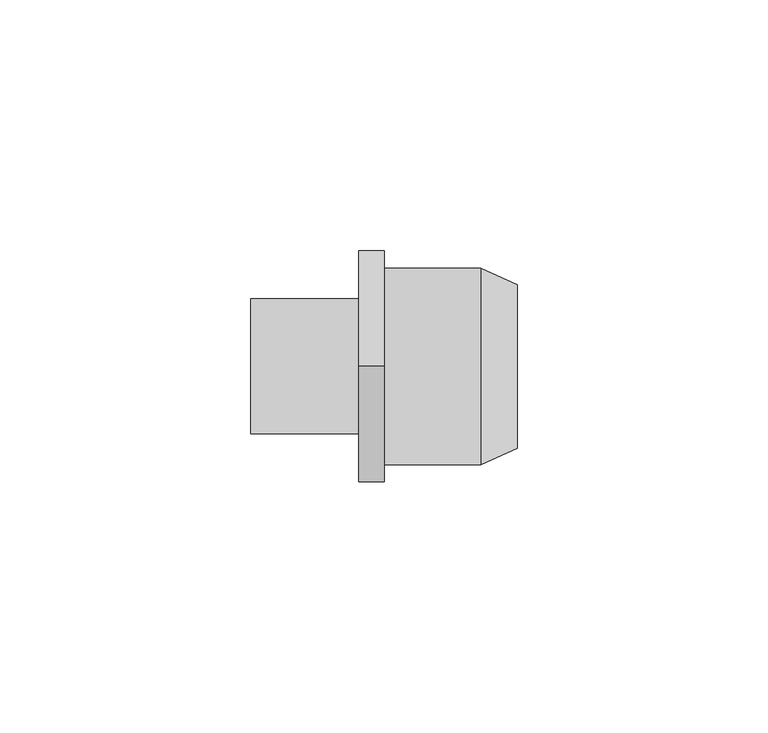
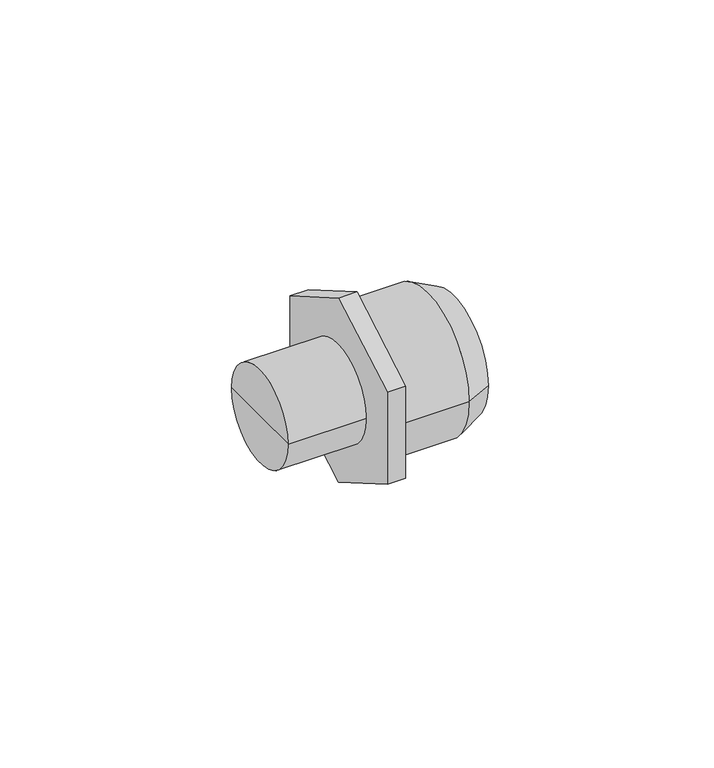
"""IFC4 building model written with IfcOpenShell, lengths in millimetres: pipe fitting geometry."""

from ifc_helpers import new_model, si_unit, point, frame, origin, origin_2d, place, context, project, spatial, polyline, circle_curve, trimmed, segment, composite_curve, outline, extrude, source, transform, mapped, element, save
from ifc_brep_helpers import plane_surface, cylinder_surface, revolved_surface, advanced_brep


def pipe_fitting_dd13a059(model_context):
    return source(origin(), model_context, "Body", "SolidModel", [
        extrude(outline(polyline([(23.0, -13.2790562), (0.0, -26.5581124), (-23.0, -13.2790562), (-23.0, 13.2790562), (0.0, 26.5581124), (23.0, 13.2790562), (23.0, -13.2790562)]), holes=[composite_curve([segment(trimmed(circle_curve(origin_2d(), 9.55), [point((9.55, 0.0))], [point((-9.55, 0.0))], True, "CARTESIAN"), True, "CONTINUOUS"), segment(trimmed(circle_curve(origin_2d(), 9.55), [point((-9.55, 0.0))], [point((9.55, 0.0))], True, "CARTESIAN"), True, "CONTINUOUS")], self_intersect=False)]), frame((-5.0, 0.0, 0.0), z_axis=(1.0, 0.0, 0.0), x_axis=(0.0, 1.0, 0.0)), (0.0, 0.0, 1.0), 5.0),
        advanced_brep(
        [(0.0, 19.6, 0.0), (0.0, -19.6, 0.0), (0.0, 0.0, 0.0), (19.3159018, 19.6, 0.0), (19.3159018, -19.6, 0.0), (26.5, 16.25, 0.0), (26.5, -16.25, 0.0), (2.5, 14.0, 0.0), (2.5, -14.0, 0.0), (26.5, -14.0, 0.0), (26.5, 14.0, 0.0), (2.5, 0.0, 0.0)],
        [
            (0, 1, circle_curve(frame((0.0, 0.0, 0.0), z_axis=(-1.0, 0.0, 0.0), x_axis=(0.0, -1.0, 0.0)), 19.6)),
            (1, 2),
            (2, 0),
            (1, 0, circle_curve(frame((0.0, 0.0, 0.0), z_axis=(-1.0, 0.0, 0.0), x_axis=(0.0, -1.0, 0.0)), 19.6)),
            (3, 4, circle_curve(frame((19.3159018, 0.0, 0.0), z_axis=(-1.0, 0.0, 0.0), x_axis=(0.0, -1.0, 0.0)), 19.6)),
            (4, 1),
            (0, 3),
            (4, 3, circle_curve(frame((19.3159018, 0.0, 0.0), z_axis=(-1.0, 0.0, 0.0), x_axis=(0.0, -1.0, 0.0)), 19.6)),
            (5, 6, circle_curve(frame((26.5, 0.0, 0.0), z_axis=(-1.0, 0.0, 0.0), x_axis=(0.0, -1.0, 0.0)), 16.25)),
            (6, 4),
            (3, 5),
            (6, 5, circle_curve(frame((26.5, 0.0, 0.0), z_axis=(-1.0, 0.0, 0.0), x_axis=(0.0, -1.0, 0.0)), 16.25)),
            (7, 8, circle_curve(frame((2.5, 0.0, 0.0), z_axis=(-1.0, 0.0, 0.0), x_axis=(0.0, -1.0, 0.0)), 14.0)),
            (8, 9),
            (9, 10, circle_curve(frame((26.5, 0.0, 0.0), z_axis=(1.0, 0.0, 0.0), x_axis=(0.0, -1.0, 0.0)), 14.0)),
            (10, 7),
            (8, 7, circle_curve(frame((2.5, 0.0, 0.0), z_axis=(-1.0, 0.0, 0.0), x_axis=(0.0, -1.0, 0.0)), 14.0)),
            (10, 9, circle_curve(frame((26.5, 0.0, 0.0), z_axis=(1.0, 0.0, 0.0), x_axis=(0.0, -1.0, 0.0)), 14.0)),
            (11, 8),
            (7, 11),
            (9, 6),
            (5, 10),
        ],
        [
            plane_surface(frame((0.0, 0.0, 0.0), z_axis=(-1.0, 0.0, 0.0), x_axis=(0.0, -1.0, 0.0))),
            cylinder_surface(frame((36.5, 0.0, 0.0), z_axis=(1.0, 0.0, 0.0), x_axis=(0.0, -1.0, 0.0)), 19.6),
            revolved_surface(polyline([(19.3159018, -19.6, 0.0), (26.5, -16.25, 0.0)]), (36.5, 0.0, 0.0), (1.0, 0.0, 0.0)),
            revolved_surface(polyline([(26.5, -14.0, 0.0), (2.5, -14.0, 0.0)]), (36.5, 0.0, 0.0), (1.0, 0.0, 0.0)),
            plane_surface(frame((2.5, 0.0, 0.0), z_axis=(1.0, 0.0, 0.0), x_axis=(0.0, -1.0, 0.0))),
            plane_surface(frame((26.5, 0.0, 0.0), z_axis=(1.0, 0.0, 0.0), x_axis=(0.0, -1.0, 0.0))),
        ],
        [
            (0, [[1, 2, 3]]),
            (0, [[4, -3, -2]]),
            (1, [[5, 6, -1, 7]]),
            (1, [[8, -7, -4, -6]]),
            (2, [[9, 10, -5, 11]]),
            (2, [[12, -11, -8, -10]]),
            (3, [[13, 14, 15, 16]]),
            (3, [[17, -16, 18, -14]]),
            (4, [[19, -13, 20]]),
            (4, [[-20, -17, -19]]),
            (5, [[-15, 21, -9, 22]]),
            (5, [[-18, -22, -12, -21]]),
        ],
    ),
        advanced_brep(
        [(-5.0, 13.45, 0.0), (-5.0, -13.45, 0.0), (-26.5, -13.45, 0.0), (-26.5, 13.45, 0.0), (-5.0, 0.0, 0.0), (-26.5, 0.0, 0.0)],
        [
            (0, 1, circle_curve(frame((-5.0, 0.0, 0.0), z_axis=(-1.0, 0.0, 0.0), x_axis=(0.0, -1.0, 0.0)), 13.45)),
            (1, 2),
            (2, 3, circle_curve(frame((-26.5, 0.0, 0.0), z_axis=(1.0, 0.0, 0.0), x_axis=(0.0, -1.0, 0.0)), 13.45)),
            (3, 0),
            (1, 0, circle_curve(frame((-5.0, 0.0, 0.0), z_axis=(-1.0, 0.0, 0.0), x_axis=(0.0, -1.0, 0.0)), 13.45)),
            (3, 2, circle_curve(frame((-26.5, 0.0, 0.0), z_axis=(1.0, 0.0, 0.0), x_axis=(0.0, -1.0, 0.0)), 13.45)),
            (4, 1),
            (0, 4),
            (2, 5),
            (5, 3),
        ],
        [
            cylinder_surface(frame((-62.7205204, 0.0, 0.0), z_axis=(1.0, 0.0, 0.0), x_axis=(0.0, -1.0, 0.0)), 13.45),
            plane_surface(frame((-5.0, 0.0, 0.0), z_axis=(1.0, 0.0, 0.0), x_axis=(0.0, -1.0, 0.0))),
            plane_surface(frame((-26.5, 0.0, 0.0), z_axis=(-1.0, 0.0, 0.0), x_axis=(0.0, -1.0, 0.0))),
        ],
        [
            (0, [[1, 2, 3, 4]]),
            (0, [[5, -4, 6, -2]]),
            (1, [[7, -1, 8]]),
            (1, [[-8, -5, -7]]),
            (2, [[-3, 9, 10]]),
            (2, [[-6, -10, -9]]),
        ],
    ),
    ])


if __name__ == "__main__":
    model = new_model("IFC4")
    model_context = context("Model", 3, world=origin())
    ifc_project = project(units=[si_unit("LENGTHUNIT", "METRE", prefix="MILLI")], contexts=[model_context])
    site = spatial("IfcSite", under=ifc_project)
    building = spatial("IfcBuilding", under=site)
    placement = place(None, origin())
    pipe_fitting_shape = pipe_fitting_dd13a059(model_context)
    element("IfcPipeFitting", 1, ObjectType="NLRS_50_PIF_UN_adapter op verdeler met steekaansluiting, buitendraad_geb : DN25-25/R1\" / d28-28/R1\"", at=placement, inside=building, context=model_context, shape_type="MappedRepresentation", body=[
        mapped(pipe_fitting_shape, transform((0.0, 0.0, 0.0), x_axis=(1.0, 0.0, 0.0), y_axis=(0.0, 1.0, 0.0), z_axis=(0.0, 0.0, 1.0))),
    ])
    save(model, "model.ifc")
